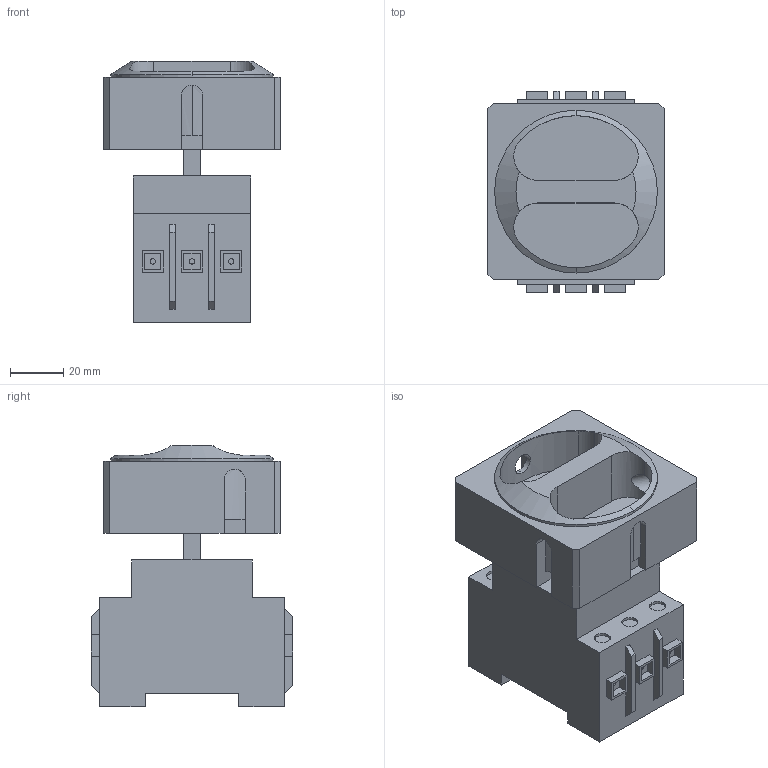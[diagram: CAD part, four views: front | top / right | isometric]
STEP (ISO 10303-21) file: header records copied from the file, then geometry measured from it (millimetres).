
FILE_DESCRIPTION(('STEP AP214'),'1');
FILE_NAME('inter_sect_022103_0_ew.stp','2017-05-11T13:05:39',('TraceParts'),('TraceParts S.A.'),'Spatial InterOp 3D',' ',' ');
FILE_SCHEMA(('automotive_design'));
Length unit declared in the file: millimetre
Products named in the file (2): inter_sect_022103_0_ew_1; inter_sect_022103_0_ew_2
Bounding box: 66 x 75.4 x 98 mm (x, y, z)
Volume: 235798 mm3; surface area: 42573.4 mm2
Topology: 2 solids, 2 shells, 206 faces, 515 edges, 341 vertices
Faces by surface type: plane 151, cylinder 53, cone 2
Entity records: 6868 total; most frequent: CARTESIAN_POINT 1717, ORIENTED_EDGE 1030, DIRECTION 989, EDGE_CURVE 515, LINE 399, VECTOR 399, VERTEX_POINT 341, AXIS2_PLACEMENT_3D 295
